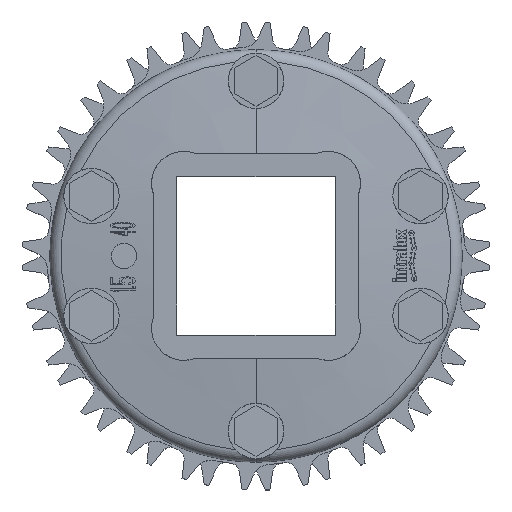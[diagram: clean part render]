
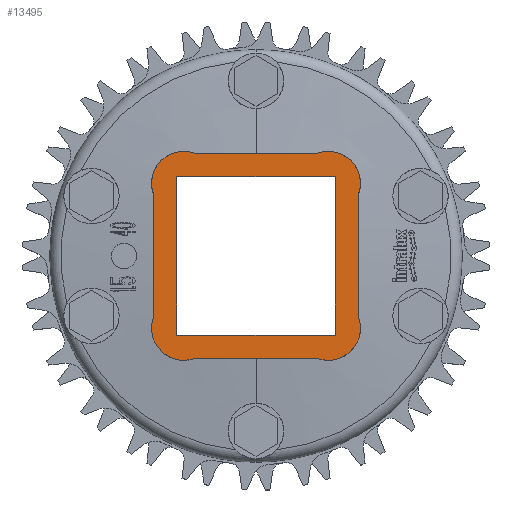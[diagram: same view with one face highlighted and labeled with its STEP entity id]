
A CAD part, top view. The second image highlights one B-rep face of the part: STEP entity #13495.
In plain terms, the highlighted planar face has unit normal (0, 0, 1) as drawn and (0, 1, 0) by its records, which use the part's own axes.
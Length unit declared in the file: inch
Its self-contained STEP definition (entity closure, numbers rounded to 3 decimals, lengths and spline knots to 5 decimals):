
#6224=DIRECTION('',(0.,0.,1.));
#6225=VECTOR('',#6224,1.21061);
#6226=CARTESIAN_POINT('',(-1.0175,0.67,-0.60531));
#6227=LINE('',#6226,#6225);
#6228=CARTESIAN_POINT('',(-0.718,0.67,-0.718));
#6229=DIRECTION('',(0.,1.,0.));
#6230=DIRECTION('',(0.352,0.,-0.936));
#6231=AXIS2_PLACEMENT_3D('',#6228,#6229,#6230);
#6233=DIRECTION('',(-1.,0.,0.));
#6234=VECTOR('',#6233,1.21061);
#6235=CARTESIAN_POINT('',(0.60531,0.67,-1.0175));
#6236=LINE('',#6235,#6234);
#6237=CARTESIAN_POINT('',(0.718,0.67,-0.718));
#6238=DIRECTION('',(0.,1.,0.));
#6239=DIRECTION('',(0.936,0.,0.352));
#6240=AXIS2_PLACEMENT_3D('',#6237,#6238,#6239);
#6242=DIRECTION('',(0.,0.,-1.));
#6243=VECTOR('',#6242,1.21061);
#6244=CARTESIAN_POINT('',(1.0175,0.67,0.60531));
#6245=LINE('',#6244,#6243);
#6246=CARTESIAN_POINT('',(0.718,0.67,0.718));
#6247=DIRECTION('',(0.,1.,0.));
#6248=DIRECTION('',(-0.352,0.,0.936));
#6249=AXIS2_PLACEMENT_3D('',#6246,#6247,#6248);
#6251=DIRECTION('',(1.,0.,0.));
#6252=VECTOR('',#6251,1.21061);
#6253=CARTESIAN_POINT('',(-0.60531,0.67,1.0175));
#6254=LINE('',#6253,#6252);
#6255=CARTESIAN_POINT('',(-0.718,0.67,0.718));
#6256=DIRECTION('',(0.,1.,0.));
#6257=DIRECTION('',(-0.936,0.,-0.352));
#6258=AXIS2_PLACEMENT_3D('',#6255,#6256,#6257);
#6260=DIRECTION('',(-1.,0.,0.));
#6261=VECTOR('',#6260,1.575);
#6262=CARTESIAN_POINT('',(0.7875,0.67,-0.7875));
#6263=LINE('',#6262,#6261);
#6264=DIRECTION('',(0.,0.,1.));
#6265=VECTOR('',#6264,1.575);
#6266=CARTESIAN_POINT('',(-0.7875,0.67,-0.7875));
#6267=LINE('',#6266,#6265);
#6268=DIRECTION('',(1.,0.,0.));
#6269=VECTOR('',#6268,1.575);
#6270=CARTESIAN_POINT('',(-0.7875,0.67,0.7875));
#6271=LINE('',#6270,#6269);
#6272=DIRECTION('',(0.,0.,-1.));
#6273=VECTOR('',#6272,1.575);
#6274=CARTESIAN_POINT('',(0.7875,0.67,0.7875));
#6275=LINE('',#6274,#6273);
#6730=CARTESIAN_POINT('',(-1.0175,0.67,-0.60531));
#6731=CARTESIAN_POINT('',(-1.0175,0.67,0.60531));
#6732=VERTEX_POINT('',#6730);
#6733=VERTEX_POINT('',#6731);
#6734=CARTESIAN_POINT('',(-0.60531,0.67,1.0175));
#6735=VERTEX_POINT('',#6734);
#6736=CARTESIAN_POINT('',(0.60531,0.67,1.0175));
#6737=VERTEX_POINT('',#6736);
#6738=CARTESIAN_POINT('',(1.0175,0.67,0.60531));
#6739=VERTEX_POINT('',#6738);
#6740=CARTESIAN_POINT('',(1.0175,0.67,-0.60531));
#6741=VERTEX_POINT('',#6740);
#6742=CARTESIAN_POINT('',(0.60531,0.67,-1.0175));
#6743=VERTEX_POINT('',#6742);
#6744=CARTESIAN_POINT('',(-0.60531,0.67,-1.0175));
#6745=VERTEX_POINT('',#6744);
#7496=CARTESIAN_POINT('',(0.7875,0.67,-0.7875));
#7497=CARTESIAN_POINT('',(-0.7875,0.67,-0.7875));
#7498=VERTEX_POINT('',#7496);
#7499=VERTEX_POINT('',#7497);
#7500=CARTESIAN_POINT('',(-0.7875,0.67,0.7875));
#7501=VERTEX_POINT('',#7500);
#7502=CARTESIAN_POINT('',(0.7875,0.67,0.7875));
#7503=VERTEX_POINT('',#7502);
#13470=CARTESIAN_POINT('',(0.,0.67,0.));
#13471=DIRECTION('',(0.,1.,0.));
#13472=DIRECTION('',(-1.,0.,0.));
#13473=AXIS2_PLACEMENT_3D('',#13470,#13471,#13472);
#13474=PLANE('',#13473);
#13475=ORIENTED_EDGE('',*,*,#13364,.F.);
#13476=ORIENTED_EDGE('',*,*,#13380,.F.);
#13477=ORIENTED_EDGE('',*,*,#13394,.F.);
#13478=ORIENTED_EDGE('',*,*,#13408,.F.);
#13479=ORIENTED_EDGE('',*,*,#13423,.F.);
#13480=ORIENTED_EDGE('',*,*,#13437,.F.);
#13481=ORIENTED_EDGE('',*,*,#13451,.F.);
#13482=ORIENTED_EDGE('',*,*,#13464,.F.);
#13483=EDGE_LOOP('',(#13475,#13476,#13477,#13478,#13479,#13480,#13481,#13482));
#13484=FACE_OUTER_BOUND('',#13483,.F.);
#13486=ORIENTED_EDGE('',*,*,#13485,.T.);
#13488=ORIENTED_EDGE('',*,*,#13487,.T.);
#13490=ORIENTED_EDGE('',*,*,#13489,.T.);
#13492=ORIENTED_EDGE('',*,*,#13491,.T.);
#13493=EDGE_LOOP('',(#13486,#13488,#13490,#13492));
#13494=FACE_BOUND('',#13493,.F.);
#13495=ADVANCED_FACE('',(#13484,#13494),#13474,.T.);
#6232=CIRCLE('',#6231,0.32);
#6241=CIRCLE('',#6240,0.32);
#6250=CIRCLE('',#6249,0.32);
#6259=CIRCLE('',#6258,0.32);
#13364=EDGE_CURVE('',#6732,#6733,#6227,.T.);
#13380=EDGE_CURVE('',#6745,#6732,#6232,.T.);
#13394=EDGE_CURVE('',#6743,#6745,#6236,.T.);
#13408=EDGE_CURVE('',#6741,#6743,#6241,.T.);
#13423=EDGE_CURVE('',#6739,#6741,#6245,.T.);
#13437=EDGE_CURVE('',#6737,#6739,#6250,.T.);
#13451=EDGE_CURVE('',#6735,#6737,#6254,.T.);
#13464=EDGE_CURVE('',#6733,#6735,#6259,.T.);
#13485=EDGE_CURVE('',#7498,#7499,#6263,.T.);
#13487=EDGE_CURVE('',#7499,#7501,#6267,.T.);
#13489=EDGE_CURVE('',#7501,#7503,#6271,.T.);
#13491=EDGE_CURVE('',#7503,#7498,#6275,.T.);
